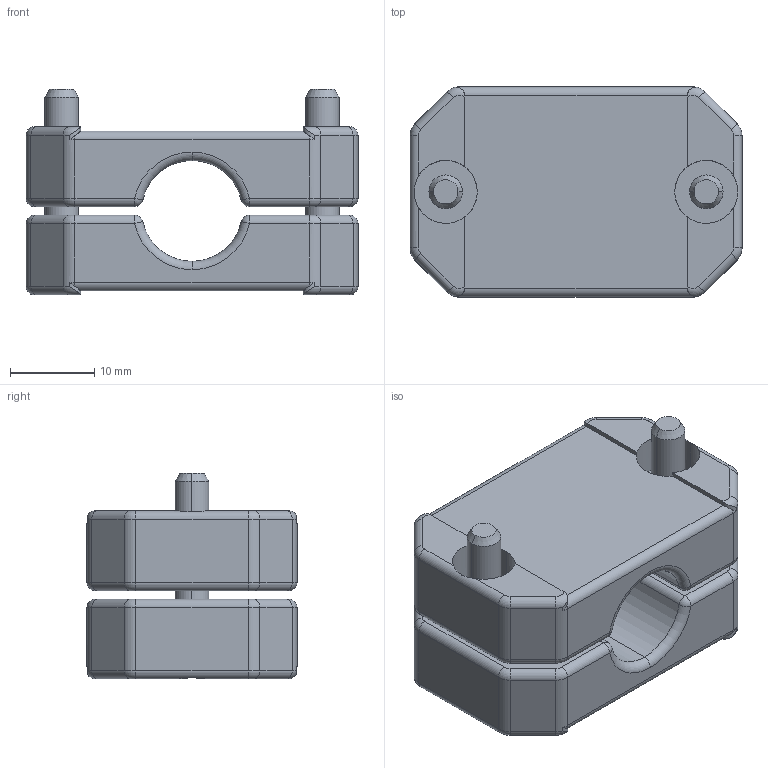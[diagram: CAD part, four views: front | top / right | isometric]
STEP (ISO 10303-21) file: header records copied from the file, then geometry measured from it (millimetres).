
FILE_DESCRIPTION (( 'STEP AP203' ), '1' );
FILE_NAME ('75003073.STEP', '2019-07-08T06:30:27', ( '' ), ( '' ), 'SwSTEP 2.0', 'SolidWorks 2015', '' );
FILE_SCHEMA (( 'CONFIG_CONTROL_DESIGN' ));
Length unit declared in the file: millimetre
Products named in the file (1): 75003073
Bounding box: 39.5 x 25 x 24.5 mm (x, y, z)
Volume: 14111.8 mm3; surface area: 6619.9 mm2
Topology: 1 solids, 3 shells, 272 faces, 660 edges, 390 vertices
Faces by surface type: cylinder 126, torus 62, plane 48, cone 28, sphere 8
Entity records: 8401 total; most frequent: CARTESIAN_POINT 2015, DIRECTION 1386, ORIENTED_EDGE 1304, EDGE_CURVE 652, AXIS2_PLACEMENT_3D 577, VERTEX_POINT 390, CIRCLE 304, EDGE_LOOP 282
